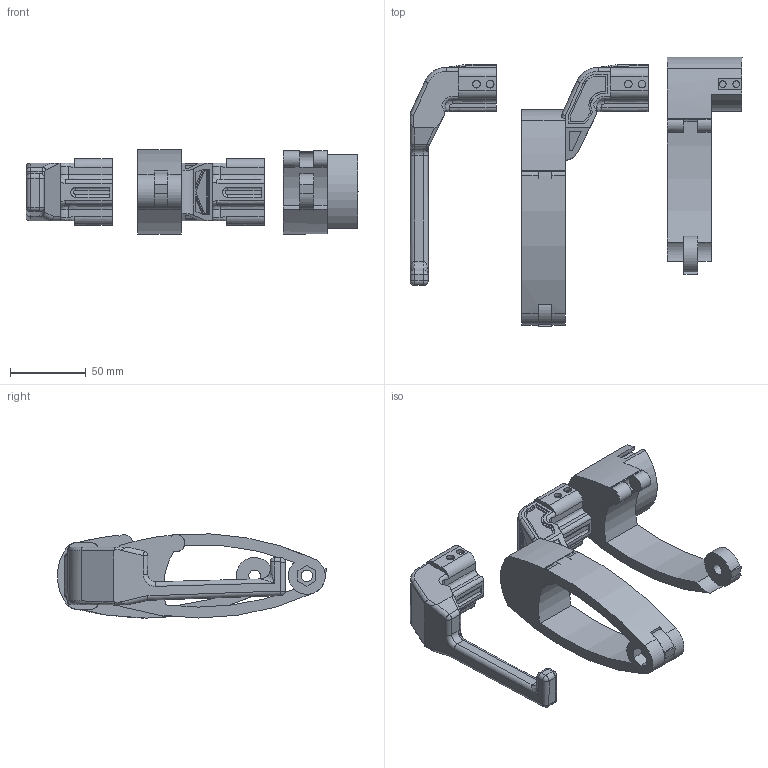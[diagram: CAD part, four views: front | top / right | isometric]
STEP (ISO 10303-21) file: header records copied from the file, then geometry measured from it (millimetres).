
FILE_DESCRIPTION(/* description */ (''),/* implementation_level */ '2;1');
FILE_NAME(/* name */ 'Doge Tailhook',/* author */ ('Dognedo'),/* organization */ ('AWCY?'),/* authorisation */ '');
FILE_SCHEMA (('AUTOMOTIVE_DESIGN { 1 0 10303 214 3 1 1 }'));
Length unit declared in the file: millimetre
Products named in the file (6): Doge_Tailhook; TailhookB; DropTailhookA; Fluxhook; Fluxhook (1); DogeTailhookA
Assembly tree (5 placements, depth 3):
  Doge_Tailhook
    TailhookB
    DropTailhookA
    Fluxhook
      Fluxhook (1)
    DogeTailhookA
Bounding box: 218.64 x 177.25 x 55.45 mm (x, y, z)
Volume: 333381.5 mm3; surface area: 77475.1 mm2
Topology: 4 solids, 4 shells, 723 faces, 2754 edges, 2049 vertices
Faces by surface type: bspline 376, plane 257, cylinder 81, sphere 7, torus 2
Full cylindrical faces by diameter (mm): 4.5 x4, 5 x12, 7.65 x4
Entity records: 46883 total; most frequent: CARTESIAN_POINT 26575, ORIENTED_EDGE 5452, DIRECTION 2795, EDGE_CURVE 2726, VERTEX_POINT 2049, LINE 1671, VECTOR 1671, EDGE_LOOP 786
